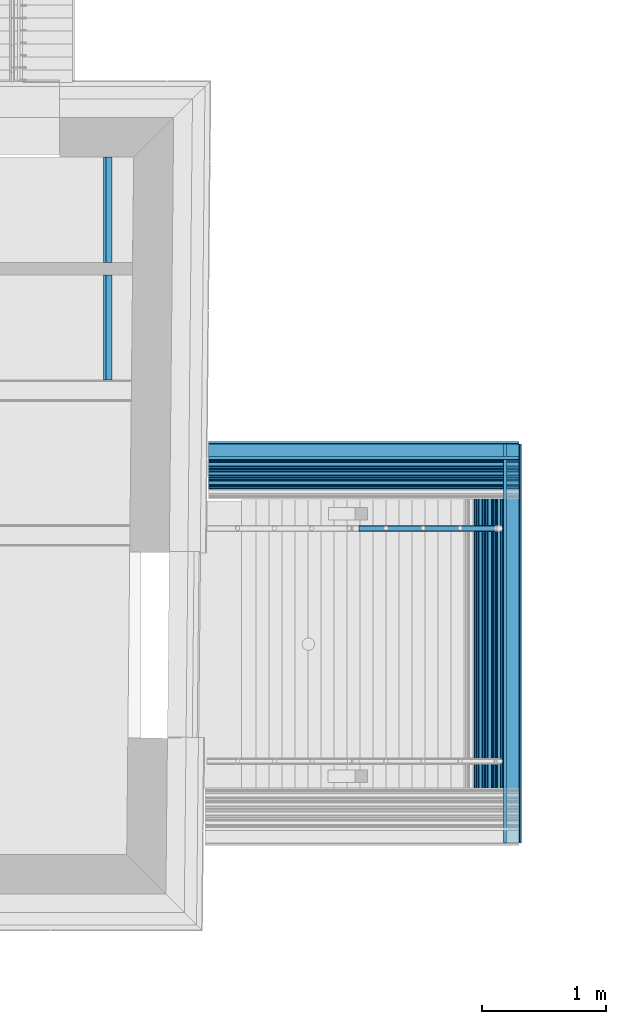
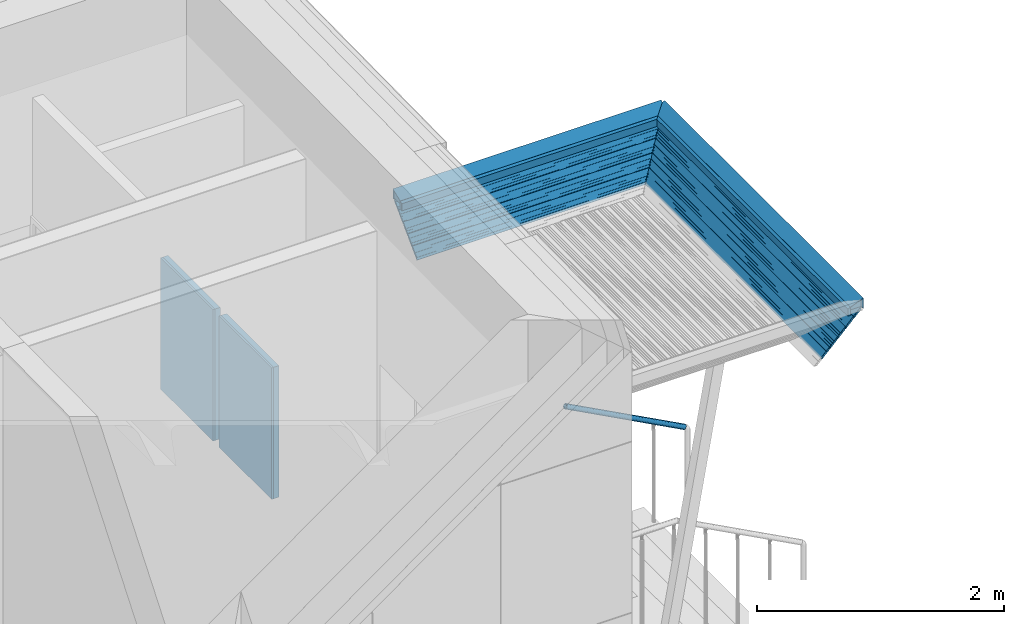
# One storey, part 57 of 418: 23 building element parts, 6 elements without a shape of their own.
"""IFC2X3 building model written with IfcOpenShell, lengths in millimetres."""

from ifc_helpers import new_model, entity, si_unit, converted_unit, derived_unit, money_unit, direction, frame, origin_with_axes, place, context, subcontext, project, spatial, polyline, outline, extrude, faceted_brep, source, transform, mapped, material, type_object, element, aggregate, save


model = new_model("IFC2X3")

# Units and contexts
model_context = context("Model", 3, precision=0.01, world=origin_with_axes(), true_north=direction((0.0, 1.0)))
body_context = subcontext(model_context, "Body", "Model", "MODEL_VIEW")
ifc_project = project(units=[si_unit("LENGTHUNIT", "METRE", prefix="MILLI"), si_unit("AREAUNIT", "SQUARE_METRE"), si_unit("VOLUMEUNIT", "CUBIC_METRE"), converted_unit("PLANEANGLEUNIT", "DEGREE", entity("IfcPlaneAngleMeasure", 0.0174532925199), si_unit("PLANEANGLEUNIT", "RADIAN"), dimensions=[0, 0, 0, 0, 0, 0, 0]), si_unit("SOLIDANGLEUNIT", "STERADIAN"), money_unit("EUR"), converted_unit("TIMEUNIT", "Year", entity("IfcTimeMeasure", 31556926.0), si_unit("TIMEUNIT", "SECOND"), dimensions=[0, 0, 1, 0, 0, 0, 0]), si_unit("MASSUNIT", "GRAM", prefix="KILO"), si_unit("THERMODYNAMICTEMPERATUREUNIT", "DEGREE_CELSIUS"), si_unit("LUMINOUSINTENSITYUNIT", "LUMEN"), si_unit("ENERGYUNIT", "JOULE", prefix="MEGA"), derived_unit("THERMALCONDUCTANCEUNIT", [(si_unit("POWERUNIT", "WATT"), 1), (si_unit("LENGTHUNIT", "METRE"), -1), (si_unit("THERMODYNAMICTEMPERATUREUNIT", "KELVIN"), -1)]), derived_unit("SPECIFICHEATCAPACITYUNIT", [(si_unit("ENERGYUNIT", "JOULE"), 1), (si_unit("MASSUNIT", "GRAM", prefix="KILO"), -1), (si_unit("THERMODYNAMICTEMPERATUREUNIT", "KELVIN"), -1)]), derived_unit("MASSDENSITYUNIT", [(si_unit("MASSUNIT", "GRAM", prefix="KILO"), 1), (si_unit("VOLUMEUNIT", "CUBIC_METRE"), -1)])], contexts=[model_context])

# Site, building, storey
site_placement = place(None, origin_with_axes())
site = spatial("IfcSite", under=ifc_project, at=site_placement, Name="Paldiski mnt 245/1, Tallinn, Harjumaa", CompositionType="COMPLEX")
building_placement = place(site_placement, origin_with_axes())
building = spatial("IfcBuilding", under=site, at=building_placement, Name="RKAS Hoone üldnimetus (kasutust iseloomustav) -> IFC Project Manager -> SOLIBRI", CompositionType="ELEMENT")
storey_placement = place(building_placement, origin_with_axes())
storey = spatial("IfcBuildingStorey", under=building, at=storey_placement, Name="Esimene korrus", CompositionType="ELEMENT", Elevation=0.0)

# Proxies, building element part
building_element_proxy_type_1 = type_object("IfcBuildingElementProxyType", Name="Railing Type", PredefinedType="NOTDEFINED")
proxy_1_placement = place(storey_placement, frame((-46768.8433803, 32771.6822003, -641.218687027), z_axis=(0.0, 0.0, 1.0), x_axis=(1.0, 0.0, 0.0)))
proxy_1 = element("IfcBuildingElementProxy", 1, at=proxy_1_placement, inside=storey, type_object=building_element_proxy_type_1, Name="Trepipiire")
building_element_proxy_type_2 = type_object("IfcBuildingElementProxyType", Name="IfcBuildingElementProxy", PredefinedType="NOTDEFINED")
proxy_2_placement = place(proxy_1_placement, frame((1818.60171567, 0.0, 944.098300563), z_axis=(0.0, 0.0, 1.0), x_axis=(1.0, 0.0, 0.0)))
proxy_2 = element("IfcBuildingElementProxy", 2, at=proxy_2_placement, type_object=building_element_proxy_type_2, Name="ÜL PIIRE - 001")
aggregate(proxy_1, [proxy_2])
ifc_material_1 = material(Name="RAL7016")
shared_shape = source(origin_with_axes(), body_context, "Body", "Brep", [
    faceted_brep([(47.7351153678, -3.55978764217, 969.07806159), (47.8817196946, 0.0, 969.35283915), (1162.06617794, 0.0, 374.892859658), (1161.90896311, -3.55978764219, 374.623743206), (49.8212142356, -4.34120444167, 972.987995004), (50.0, 0.0, 973.323089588), (49.8212142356, 4.34120444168, 972.987995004), (49.2902892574, 8.55050358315, 971.992892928), (48.4233569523, 12.5, 970.368019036), (47.2467586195, 16.0696902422, 968.162744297), (45.7962446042, 19.151111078, 965.444074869), (44.1158880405, 21.6506350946, 962.294616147), (42.2567457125, 23.4923155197, 958.81006284), (40.275306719, 24.6201938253, 955.096291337), (38.2317760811, 25.0, 951.266142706), (36.1882454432, 24.6201938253, 947.435994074), (34.2068064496, 23.4923155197, 943.722222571), (32.3476641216, 21.6506350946, 940.237669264), (30.6673075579, 19.151111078, 937.088210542), (29.2167935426, 16.0696902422, 934.369541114), (28.0401952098, 12.5, 932.164266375), (27.1732629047, 8.55050358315, 930.539392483), (26.6423379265, 4.34120444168, 929.544290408), (26.4635521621, 0.0, 929.209195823), (26.6423379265, -4.34120444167, 929.544290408), (27.1732629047, -8.55050358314, 930.539392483), (28.0401952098, -12.5, 932.164266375), (29.2167935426, -16.0696902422, 934.369541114), (30.6673075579, -19.151111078, 937.088210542), (32.3476641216, -21.6506350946, 940.237669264), (34.2068064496, -23.4923155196, 943.722222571), (36.1882454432, -24.6201938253, 947.435994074), (38.2317760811, -25.0, 951.266142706), (40.275306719, -24.6201938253, 955.096291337), (42.2567457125, -23.4923155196, 958.81006284), (44.1158880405, -21.6506350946, 962.294616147), (45.7962446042, -19.151111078, 965.444074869), (47.2467586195, -16.0696902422, 968.162744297), (48.4233569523, -12.5, 970.368019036), (49.2902892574, -8.55050358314, 971.992892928), (47.7351153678, 3.55978764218, 969.07806159), (47.2997568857, -7.01141293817, 968.262077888), (46.5888723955, -10.25, 966.929681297), (45.6240617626, -13.1771459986, 965.121356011), (44.43464027, -15.7039110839, 962.89204708), (43.0567478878, -17.7535207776, 960.309490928), (41.5322511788, -19.2636987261, 957.452157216), (39.9074712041, -20.1885589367, 954.406864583), (38.2317760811, -20.5, 951.266142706), (36.556080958, -20.1885589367, 948.125420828), (34.9313009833, -19.2636987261, 945.080128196), (33.4068042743, -17.7535207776, 942.222794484), (32.0289118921, -15.7039110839, 939.640238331), (30.8394903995, -13.1771459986, 937.4109294), (29.8746797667, -10.25, 935.602604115), (29.1637952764, -7.01141293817, 934.270207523), (28.7284367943, -3.55978764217, 933.454223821), (28.5818324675, 0.0, 933.179446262), (28.7284367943, 3.55978764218, 933.454223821), (29.1637952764, 7.01141293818, 934.270207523), (29.8746797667, 10.25, 935.602604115), (30.8394903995, 13.1771459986, 937.4109294), (32.0289118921, 15.7039110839, 939.640238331), (33.4068042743, 17.7535207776, 942.222794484), (34.9313009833, 19.2636987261, 945.080128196), (36.556080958, 20.1885589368, 948.125420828), (38.2317760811, 20.5, 951.266142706), (39.9074712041, 20.1885589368, 954.406864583), (41.5322511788, 19.2636987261, 957.452157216), (43.0567478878, 17.7535207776, 960.309490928), (44.43464027, 15.7039110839, 962.89204708), (45.6240617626, 13.1771459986, 965.121356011), (46.5888723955, 10.25, 966.929681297), (47.2997568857, 7.01141293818, 968.262077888), (1161.90896311, 3.55978764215, 374.623743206), (1145.40784379, 21.6506350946, 346.377535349), (1147.4015417, 23.4923155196, 349.790298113), (1149.52638751, 24.6201938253, 353.427556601), (1151.71781885, 25.0, 357.178794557), (1153.90925019, 24.6201938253, 360.930032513), (1156.03409599, 23.4923155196, 364.567291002), (1158.0277939, 21.6506350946, 367.980053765), (1159.82976642, 19.151111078, 371.064625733), (1161.3852615, 16.0696902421, 373.727283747), (1162.64701624, 12.5, 375.887124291), (1163.57669284, 8.55050358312, 377.478521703), (1164.14604356, 4.34120444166, 378.453122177), (1164.33776896, 0.0, 378.781312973), (1164.14604356, -4.34120444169, 378.453122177), (1163.57669284, -8.55050358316, 377.478521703), (1162.64701624, -12.5, 375.887124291), (1161.3852615, -16.0696902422, 373.727283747), (1159.82976642, -19.151111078, 371.064625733), (1158.0277939, -21.6506350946, 367.980053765), (1156.03409599, -23.4923155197, 364.567291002), (1153.90925019, -24.6201938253, 360.930032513), (1151.71781885, -25.0, 357.178794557), (1149.52638751, -24.6201938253, 353.427556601), (1147.4015417, -23.4923155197, 349.790298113), (1145.40784379, -21.6506350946, 346.377535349), (1143.60587128, -19.151111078, 343.292963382), (1142.05037619, -16.0696902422, 340.630305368), (1140.78862146, -12.5, 338.470464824), (1139.85894485, -8.55050358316, 336.879067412), (1139.28959413, -4.34120444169, 335.904466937), (1139.09786873, 0.0, 335.576276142), (1139.28959413, 4.34120444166, 335.904466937), (1139.85894485, 8.55050358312, 336.879067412), (1140.78862146, 12.5, 338.470464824), (1142.05037619, 16.0696902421, 340.630305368), (1143.60587128, 19.151111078, 343.292963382), (1156.89199839, 17.7535207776, 366.035827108), (1155.25716611, 19.2636987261, 363.237361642), (1153.51479255, 20.1885589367, 360.254809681), (1151.71781885, 20.5, 357.178794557), (1149.92084515, 20.1885589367, 354.102779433), (1148.17847159, 19.2636987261, 351.120227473), (1146.5436393, 17.7535207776, 348.321762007), (1145.06602184, 15.7039110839, 345.792412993), (1143.79051587, 13.1771459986, 343.609033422), (1142.75587699, 10.25, 341.837964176), (1141.99354217, 7.01141293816, 340.533018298), (1141.52667458, 3.55978764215, 339.733845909), (1141.36945976, 0.0, 339.464729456), (1141.52667458, -3.55978764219, 339.733845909), (1141.99354217, -7.01141293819, 340.533018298), (1142.75587699, -10.25, 341.837964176), (1143.79051587, -13.1771459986, 343.609033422), (1145.06602184, -15.703911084, 345.792412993), (1146.5436393, -17.7535207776, 348.321762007), (1148.17847159, -19.2636987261, 351.120227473), (1149.92084515, -20.1885589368, 354.102779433), (1151.71781885, -20.5, 357.178794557), (1153.51479255, -20.1885589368, 360.254809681), (1155.25716611, -19.2636987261, 363.237361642), (1156.89199839, -17.7535207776, 366.035827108), (1158.36961585, -15.703911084, 368.565176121), (1159.64512183, -13.1771459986, 370.748555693), (1160.67976071, -10.25, 372.519624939), (1161.44209552, -7.01141293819, 373.824570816), (1161.44209552, 7.01141293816, 373.824570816), (1160.67976071, 10.25, 372.519624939), (1159.64512183, 13.1771459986, 370.748555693), (1158.36961585, 15.7039110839, 368.565176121)], [[[0, 1, 2, 3]], [[4, 5, 6, 7, 8, 9, 10, 11, 12, 13, 14, 15, 16, 17, 18, 19, 20, 21, 22, 23, 24, 25, 26, 27, 28, 29, 30, 31, 32, 33, 34, 35, 36, 37, 38, 39], [40, 1, 0, 41, 42, 43, 44, 45, 46, 47, 48, 49, 50, 51, 52, 53, 54, 55, 56, 57, 58, 59, 60, 61, 62, 63, 64, 65, 66, 67, 68, 69, 70, 71, 72, 73]], [[1, 40, 74, 2]], [[75, 76, 77, 78, 79, 80, 81, 82, 83, 84, 85, 86, 87, 88, 89, 90, 91, 92, 93, 94, 95, 96, 97, 98, 99, 100, 101, 102, 103, 104, 105, 106, 107, 108, 109, 110], [111, 112, 113, 114, 115, 116, 117, 118, 119, 120, 121, 122, 123, 124, 125, 126, 127, 128, 129, 130, 131, 132, 133, 134, 135, 136, 137, 138, 139, 3, 2, 74, 140, 141, 142, 143]], [[41, 0, 3, 139]], [[5, 4, 88, 87]], [[6, 5, 87, 86]], [[7, 6, 86, 85]], [[8, 7, 85, 84]], [[9, 8, 84, 83]], [[10, 9, 83, 82]], [[11, 10, 82, 81]], [[12, 11, 81, 80]], [[13, 12, 80, 79]], [[14, 13, 79, 78]], [[15, 14, 78, 77]], [[16, 15, 77, 76]], [[17, 16, 76, 75]], [[18, 17, 75, 110]], [[19, 18, 110, 109]], [[20, 19, 109, 108]], [[21, 20, 108, 107]], [[22, 21, 107, 106]], [[23, 22, 106, 105]], [[24, 23, 105, 104]], [[25, 24, 104, 103]], [[26, 25, 103, 102]], [[27, 26, 102, 101]], [[28, 27, 101, 100]], [[29, 28, 100, 99]], [[30, 29, 99, 98]], [[31, 30, 98, 97]], [[32, 31, 97, 96]], [[33, 32, 96, 95]], [[34, 33, 95, 94]], [[35, 34, 94, 93]], [[36, 35, 93, 92]], [[37, 36, 92, 91]], [[38, 37, 91, 90]], [[39, 38, 90, 89]], [[4, 39, 89, 88]], [[42, 41, 139, 138]], [[43, 42, 138, 137]], [[44, 43, 137, 136]], [[45, 44, 136, 135]], [[46, 45, 135, 134]], [[47, 46, 134, 133]], [[48, 47, 133, 132]], [[49, 48, 132, 131]], [[50, 49, 131, 130]], [[51, 50, 130, 129]], [[52, 51, 129, 128]], [[53, 52, 128, 127]], [[54, 53, 127, 126]], [[55, 54, 126, 125]], [[56, 55, 125, 124]], [[57, 56, 124, 123]], [[58, 57, 123, 122]], [[59, 58, 122, 121]], [[60, 59, 121, 120]], [[61, 60, 120, 119]], [[62, 61, 119, 118]], [[63, 62, 118, 117]], [[64, 63, 117, 116]], [[65, 64, 116, 115]], [[66, 65, 115, 114]], [[67, 66, 114, 113]], [[68, 67, 113, 112]], [[69, 68, 112, 111]], [[70, 69, 111, 143]], [[71, 70, 143, 142]], [[72, 71, 142, 141]], [[73, 72, 141, 140]], [[40, 73, 140, 74]]]),
])
building_element_part_1_placement = place(proxy_2_placement, origin_with_axes())
building_element_part_1 = element("IfcBuildingElementPart", 3, at=building_element_part_1_placement, material=ifc_material_1, Name="RAL7016", context=body_context, shape_type="MappedRepresentation", body=[
    mapped(shared_shape, transform((-607.16888448, 0.0, -322.879613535))),
])
aggregate(proxy_2, [building_element_part_1])

# Wall, building element parts
wall_type = type_object("IfcWallType", Name="WC-tagasein 68", PredefinedType="NOTDEFINED")
wall_1_placement = place(storey_placement, frame((-47503.6975133, 34819.9150652, 0.0), z_axis=(0.0, 0.0, 1.0), x_axis=(0.0, -1.0, 0.0)))
wall_1 = element("IfcWall", 4, at=wall_1_placement, inside=storey, type_object=wall_type, Name="WC_tagasein")
ifc_material_2 = material(Name="SKR-01_Õhkvahe - Raam")
building_element_part_2_placement = place(wall_1_placement, origin_with_axes())
building_element_part_2 = element("IfcBuildingElementPart", 5, at=building_element_part_2_placement, material=ifc_material_2, Name="SKR-01_Õhkvahe - Raam", context=body_context, shape_type="SweptSolid", body=[
    extrude(outline(polyline([(0.0, -50.0), (850.08634089, -50.0), (850.08634089, 0.0), (0.0, 0.0), (0.0, -50.0)])), origin_with_axes(), (0.0, 0.0, 1.0), 1300.0),
])
ifc_material_3 = material(Name="SKR-04_Puitplaat")
building_element_part_3_placement = place(wall_1_placement, origin_with_axes())
building_element_part_3 = element("IfcBuildingElementPart", 6, at=building_element_part_3_placement, material=ifc_material_3, Name="SKR-04_Puitplaat", context=body_context, shape_type="SweptSolid", body=[
    extrude(outline(polyline([(0.0, -68.0), (850.08634089, -68.0), (850.08634089, -50.0), (0.0, -50.0), (0.0, -68.0)])), origin_with_axes(), (0.0, 0.0, 1.0), 1300.0),
])
aggregate(wall_1, [building_element_part_2, building_element_part_3])

wall_2_placement = place(storey_placement, frame((-47503.6975133, 35769.8287244, 0.0), z_axis=(0.0, 0.0, 1.0), x_axis=(0.0, -1.0, 0.0)))
wall_2 = element("IfcWall", 7, at=wall_2_placement, inside=storey, type_object=wall_type, Name="WC_tagasein")
building_element_part_4_placement = place(wall_2_placement, origin_with_axes())
building_element_part_4 = element("IfcBuildingElementPart", 8, at=building_element_part_4_placement, material=ifc_material_2, Name="SKR-01_Õhkvahe - Raam", context=body_context, shape_type="SweptSolid", body=[
    extrude(outline(polyline([(0.0, -50.0), (850.08634089, -50.0), (850.08634089, 0.0), (0.0, 0.0), (0.0, -50.0)])), origin_with_axes(), (0.0, 0.0, 1.0), 1300.0),
])
building_element_part_5_placement = place(wall_2_placement, origin_with_axes())
building_element_part_5 = element("IfcBuildingElementPart", 9, at=building_element_part_5_placement, material=ifc_material_3, Name="SKR-04_Puitplaat", context=body_context, shape_type="SweptSolid", body=[
    extrude(outline(polyline([(0.0, -68.0), (850.08634089, -68.0), (850.08634089, -50.0), (0.0, -50.0), (0.0, -68.0)])), origin_with_axes(), (0.0, 0.0, 1.0), 1300.0),
])
aggregate(wall_2, [building_element_part_4, building_element_part_5])

# Proxy, building element parts
building_element_proxy_type_3 = type_object("IfcBuildingElementProxyType", Name="Varikatus_01_02_03_raastas_01_02_03 463 x 518", PredefinedType="NOTDEFINED")
proxy_3_placement = place(storey_placement, frame((-46726.5941701, 33451.6821945, 3002.0), z_axis=(0.0, 0.0, 1.0), x_axis=(1.0, 0.0, 0.0)))
proxy_3 = element("IfcBuildingElementProxy", 10, at=proxy_3_placement, inside=storey, type_object=building_element_proxy_type_3, Name="Varikatus")
ifc_material_4 = material(Name="Laudis 5072 Honka 45 horisontaalne raastas")
building_element_part_6_placement = place(proxy_3_placement, origin_with_axes())
building_element_part_6 = element("IfcBuildingElementPart", 11, at=building_element_part_6_placement, material=ifc_material_4, Name="Laudis 5072 Honka 45 horisontaalne raastas", context=body_context, shape_type="SweptSolid", body=[
    extrude(outline(polyline([(-0.707110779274, -28.991377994), (70.0035572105, -99.7020658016), (77.0746259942, -92.6309996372), (62.9324932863, -78.4888616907), (70.7106681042, -70.7106876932), (60.4037490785, -60.4037652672), (55.4540010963, -65.3535115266), (51.4654463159, -61.3649565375), (56.4151941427, -56.4152087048), (45.9298674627, -45.9298803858), (40.9801194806, -50.8796266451), (36.6477185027, -46.5472250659), (41.5974664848, -41.5974788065), (31.0339169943, -31.0339261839), (26.0841690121, -35.9836724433), (21.5852050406, -31.4847067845), (26.5349528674, -26.5349589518), (0.0, 0.0), (-7.42462197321, -7.42461938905), (6.71751230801, -21.5667571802), (-0.707110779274, -28.991377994)])), frame((0.0, 0.0, 0.0), z_axis=(-1.0, 0.0, 0.0), x_axis=(0.0, -1.0, 0.0)), (0.0, 0.0, -1.0), 2508.95322517),
])
building_element_part_7_placement = place(proxy_3_placement, origin_with_axes())
building_element_part_7 = element("IfcBuildingElementPart", 12, at=building_element_part_7_placement, material=ifc_material_4, Name="Laudis 5072 Honka 45 horisontaalne raastas", context=body_context, shape_type="SweptSolid", body=[
    extrude(outline(polyline([(73.6350649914, -103.3335746), (144.345732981, -174.044262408), (151.416801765, -166.973196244), (137.274669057, -152.831058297), (145.052843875, -145.0528843), (134.745924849, -134.745961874), (129.796176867, -139.695708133), (125.807622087, -135.707153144), (130.757369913, -130.757405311), (120.272043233, -120.272076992), (115.322295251, -125.221823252), (110.989894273, -120.889421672), (115.939642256, -115.939675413), (105.376092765, -105.37612279), (100.426344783, -110.32586905), (95.9273808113, -105.826903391), (100.877128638, -100.877155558), (74.3421757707, -74.3421966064), (66.9175537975, -81.7668159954), (81.0596880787, -95.9089537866), (73.6350649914, -103.3335746)])), frame((0.0, 0.0, 0.0), z_axis=(-1.0, 0.0, 0.0), x_axis=(0.0, -1.0, 0.0)), (0.0, 0.0, -1.0), 2508.95322517),
])
building_element_part_8_placement = place(proxy_3_placement, origin_with_axes())
building_element_part_8 = element("IfcBuildingElementPart", 13, at=building_element_part_8_placement, material=ifc_material_4, Name="Laudis 5072 Honka 45 horisontaalne raastas", context=body_context, shape_type="SweptSolid", body=[
    extrude(outline(polyline([(147.977240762, -177.675771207), (218.687908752, -248.386459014), (225.758977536, -241.31539285), (211.616844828, -227.173254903), (219.395019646, -219.395080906), (209.08810062, -209.08815848), (204.138352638, -214.037904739), (200.149797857, -210.04934975), (205.099545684, -205.099601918), (194.614219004, -194.614273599), (189.664471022, -199.564019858), (185.332070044, -195.231618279), (190.281818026, -190.281872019), (179.718268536, -179.718319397), (174.768520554, -184.668065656), (170.269556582, -180.169099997), (175.219304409, -175.219352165), (148.684351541, -148.684393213), (141.259729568, -156.109012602), (155.401863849, -170.251150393), (147.977240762, -177.675771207)])), frame((0.0, 0.0, 0.0), z_axis=(-1.0, 0.0, 0.0), x_axis=(0.0, -1.0, 0.0)), (0.0, 0.0, -1.0), 2508.95322517),
])
building_element_part_9_placement = place(proxy_3_placement, origin_with_axes())
building_element_part_9 = element("IfcBuildingElementPart", 14, at=building_element_part_9_placement, material=ifc_material_4, Name="Laudis 5072 Honka 45 horisontaalne raastas", context=body_context, shape_type="SweptSolid", body=[
    extrude(outline(polyline([(222.223442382, -251.921993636), (292.934110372, -322.632681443), (300.005179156, -315.561615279), (285.863046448, -301.419477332), (293.641221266, -293.641303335), (283.33430224, -283.334380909), (278.384554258, -288.284127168), (274.395999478, -284.295572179), (279.345747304, -279.345824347), (268.860420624, -268.860496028), (263.910672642, -273.810242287), (259.578271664, -269.477840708), (264.528019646, -264.528094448), (253.964470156, -253.964541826), (249.014722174, -258.914288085), (244.515758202, -254.415322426), (249.465506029, -249.465574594), (222.930553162, -222.930615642), (215.505931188, -230.355235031), (229.64806547, -244.497372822), (222.223442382, -251.921993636)])), frame((0.0, 0.0, 0.0), z_axis=(-1.0, 0.0, 0.0), x_axis=(0.0, -1.0, 0.0)), (0.0, 0.0, -1.0), 2508.95322517),
])
building_element_part_10_placement = place(proxy_3_placement, origin_with_axes())
building_element_part_10 = element("IfcBuildingElementPart", 15, at=building_element_part_10_placement, material=ifc_material_4, Name="Laudis 5072 Honka 45 horisontaalne raastas", context=body_context, shape_type="SweptSolid", body=[
    extrude(outline(polyline([(296.469644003, -326.168216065), (367.180311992, -396.878903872), (374.251380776, -389.807837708), (360.109248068, -375.665699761), (367.887422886, -367.887525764), (357.58050386, -357.580603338), (352.630755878, -362.530349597), (348.642201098, -358.541794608), (353.591948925, -353.592046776), (343.106622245, -343.106718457), (338.156874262, -348.056464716), (333.824473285, -343.724063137), (338.774221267, -338.774316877), (328.210671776, -328.210764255), (323.260923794, -333.160510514), (318.761959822, -328.661544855), (323.711707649, -323.711797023), (297.176754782, -297.176838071), (289.752132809, -304.60145746), (303.89426709, -318.743595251), (296.469644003, -326.168216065)])), frame((0.0, 0.0, 0.0), z_axis=(-1.0, 0.0, 0.0), x_axis=(0.0, -1.0, 0.0)), (0.0, 0.0, -1.0), 2508.95322517),
])
ifc_material_5 = material(Name="Puit - Konstruktsioon")
building_element_part_11_placement = place(proxy_3_placement, origin_with_axes())
building_element_part_11 = element("IfcBuildingElementPart", 16, at=building_element_part_11_placement, material=ifc_material_5, Name="Puit - Konstruktsioon", context=body_context, shape_type="SweptSolid", body=[
    extrude(outline(polyline([(1.15655691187e-06, 64.9893416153), (1.15655691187e-06, 4.50304654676e-07), (99.5753771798, 4.50304654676e-07), (99.5753771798, 24.9999969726), (1.15655691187e-06, 64.9893416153)])), frame((0.0, 0.0, 0.0), z_axis=(-1.0, 0.0, 0.0), x_axis=(0.0, -1.0, 0.0)), (0.0, 0.0, -1.0), 2508.95322517),
])
building_element_part_12_placement = place(proxy_3_placement, origin_with_axes())
building_element_part_12 = element("IfcBuildingElementPart", 17, at=building_element_part_12_placement, material=ifc_material_1, Name="RAL7016", context=body_context, shape_type="SweptSolid", body=[
    extrude(outline(polyline([(-20.9999961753, -28.4630715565), (-8.11233371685, -15.5753892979), (-8.81944068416, -14.8682823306), (-20.0, -26.0488592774), (-20.0, 74.5582444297), (99.5753779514, 26.5369258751), (99.9264049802, 27.9350719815), (-20.9999961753, 75.7446341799), (-20.9999961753, -28.4630715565)])), frame((0.0, 0.0, 0.0), z_axis=(-1.0, 0.0, 0.0), x_axis=(0.0, -1.0, 0.0)), (0.0, 0.0, -1.0), 2508.95322517),
])
ifc_material_6 = material(Name="PVC")
building_element_part_13_placement = place(proxy_3_placement, origin_with_axes())
building_element_part_13 = element("IfcBuildingElementPart", 18, at=building_element_part_13_placement, material=ifc_material_6, Name="PVC", context=body_context, shape_type="SweptSolid", body=[
    extrude(outline(polyline([(-8.02250845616e-07, 66.4893437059), (1.06016954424e-06, 64.9893410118), (123.575378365, 15.3616278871), (123.575378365, -54.6383718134), (124.984796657, -54.6383718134), (124.984796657, 16.4879117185), (-8.02250845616e-07, 66.4893437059)])), frame((0.0, 0.0, 0.0), z_axis=(-1.0, 0.0, 0.0), x_axis=(0.0, -1.0, 0.0)), (0.0, 0.0, -1.0), 2508.95322517),
])
ifc_material_7 = material(Name="Veekindel vineer 24 mm")
building_element_part_14_placement = place(proxy_3_placement, origin_with_axes())
building_element_part_14 = element("IfcBuildingElementPart", 19, at=building_element_part_14_placement, material=ifc_material_7, Name="Veekindel vineer 24 mm", context=body_context, shape_type="SweptSolid", body=[
    extrude(outline(polyline([(99.5753780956, 24.99999609), (99.5753780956, -54.6383718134), (123.575378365, -54.6383718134), (123.575378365, 15.3616278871), (99.5753780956, 24.99999609)])), frame((0.0, 0.0, 0.0), z_axis=(-1.0, 0.0, 0.0), x_axis=(0.0, -1.0, 0.0)), (0.0, 0.0, -1.0), 2508.95322517),
])
aggregate(proxy_3, [building_element_part_6, building_element_part_7, building_element_part_8, building_element_part_9, building_element_part_10, building_element_part_11, building_element_part_12, building_element_part_13, building_element_part_14])

proxy_4_placement = place(storey_placement, frame((-44217.6409449, 33451.6821945, 3002.0), z_axis=(0.0, 0.0, 1.0), x_axis=(0.0, -1.0, 0.0)))
proxy_4 = element("IfcBuildingElementProxy", 20, at=proxy_4_placement, inside=storey, type_object=building_element_proxy_type_3, Name="Varikatus")
building_element_part_15_placement = place(proxy_4_placement, origin_with_axes())
building_element_part_15 = element("IfcBuildingElementPart", 21, at=building_element_part_15_placement, material=ifc_material_4, Name="Laudis 5072 Honka 45 horisontaalne raastas", context=body_context, shape_type="SweptSolid", body=[
    extrude(outline(polyline([(-0.707110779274, -28.991377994), (70.0035572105, -99.7020658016), (77.0746259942, -92.6309996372), (62.9324932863, -78.4888616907), (70.7106681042, -70.7106876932), (60.4037490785, -60.4037652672), (55.4540010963, -65.3535115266), (51.4654463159, -61.3649565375), (56.4151941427, -56.4152087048), (45.9298674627, -45.9298803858), (40.9801194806, -50.8796266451), (36.6477185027, -46.5472250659), (41.5974664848, -41.5974788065), (31.0339169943, -31.0339261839), (26.0841690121, -35.9836724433), (21.5852050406, -31.4847067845), (26.5349528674, -26.5349589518), (0.0, 0.0), (-7.42462197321, -7.42461938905), (6.71751230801, -21.5667571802), (-0.707110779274, -28.991377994)])), frame((0.0, 0.0, 0.0), z_axis=(-1.0, 0.0, 0.0), x_axis=(0.0, -1.0, 0.0)), (0.0, 0.0, -1.0), 3218.89132935),
])
building_element_part_16_placement = place(proxy_4_placement, origin_with_axes())
building_element_part_16 = element("IfcBuildingElementPart", 22, at=building_element_part_16_placement, material=ifc_material_4, Name="Laudis 5072 Honka 45 horisontaalne raastas", context=body_context, shape_type="SweptSolid", body=[
    extrude(outline(polyline([(73.6350649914, -103.3335746), (144.345732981, -174.044262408), (151.416801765, -166.973196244), (137.274669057, -152.831058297), (145.052843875, -145.0528843), (134.745924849, -134.745961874), (129.796176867, -139.695708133), (125.807622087, -135.707153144), (130.757369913, -130.757405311), (120.272043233, -120.272076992), (115.322295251, -125.221823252), (110.989894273, -120.889421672), (115.939642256, -115.939675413), (105.376092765, -105.37612279), (100.426344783, -110.32586905), (95.9273808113, -105.826903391), (100.877128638, -100.877155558), (74.3421757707, -74.3421966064), (66.9175537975, -81.7668159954), (81.0596880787, -95.9089537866), (73.6350649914, -103.3335746)])), frame((0.0, 0.0, 0.0), z_axis=(-1.0, 0.0, 0.0), x_axis=(0.0, -1.0, 0.0)), (0.0, 0.0, -1.0), 3218.89132935),
])
building_element_part_17_placement = place(proxy_4_placement, origin_with_axes())
building_element_part_17 = element("IfcBuildingElementPart", 23, at=building_element_part_17_placement, material=ifc_material_4, Name="Laudis 5072 Honka 45 horisontaalne raastas", context=body_context, shape_type="SweptSolid", body=[
    extrude(outline(polyline([(147.977240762, -177.675771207), (218.687908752, -248.386459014), (225.758977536, -241.31539285), (211.616844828, -227.173254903), (219.395019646, -219.395080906), (209.08810062, -209.08815848), (204.138352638, -214.037904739), (200.149797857, -210.04934975), (205.099545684, -205.099601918), (194.614219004, -194.614273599), (189.664471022, -199.564019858), (185.332070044, -195.231618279), (190.281818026, -190.281872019), (179.718268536, -179.718319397), (174.768520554, -184.668065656), (170.269556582, -180.169099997), (175.219304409, -175.219352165), (148.684351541, -148.684393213), (141.259729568, -156.109012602), (155.401863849, -170.251150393), (147.977240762, -177.675771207)])), frame((0.0, 0.0, 0.0), z_axis=(-1.0, 0.0, 0.0), x_axis=(0.0, -1.0, 0.0)), (0.0, 0.0, -1.0), 3218.89132935),
])
building_element_part_18_placement = place(proxy_4_placement, origin_with_axes())
building_element_part_18 = element("IfcBuildingElementPart", 24, at=building_element_part_18_placement, material=ifc_material_4, Name="Laudis 5072 Honka 45 horisontaalne raastas", context=body_context, shape_type="SweptSolid", body=[
    extrude(outline(polyline([(222.223442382, -251.921993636), (292.934110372, -322.632681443), (300.005179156, -315.561615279), (285.863046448, -301.419477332), (293.641221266, -293.641303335), (283.33430224, -283.334380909), (278.384554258, -288.284127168), (274.395999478, -284.295572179), (279.345747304, -279.345824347), (268.860420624, -268.860496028), (263.910672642, -273.810242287), (259.578271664, -269.477840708), (264.528019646, -264.528094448), (253.964470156, -253.964541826), (249.014722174, -258.914288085), (244.515758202, -254.415322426), (249.465506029, -249.465574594), (222.930553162, -222.930615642), (215.505931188, -230.355235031), (229.64806547, -244.497372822), (222.223442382, -251.921993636)])), frame((0.0, 0.0, 0.0), z_axis=(-1.0, 0.0, 0.0), x_axis=(0.0, -1.0, 0.0)), (0.0, 0.0, -1.0), 3218.89132935),
])
building_element_part_19_placement = place(proxy_4_placement, origin_with_axes())
building_element_part_19 = element("IfcBuildingElementPart", 25, at=building_element_part_19_placement, material=ifc_material_4, Name="Laudis 5072 Honka 45 horisontaalne raastas", context=body_context, shape_type="SweptSolid", body=[
    extrude(outline(polyline([(296.469644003, -326.168216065), (367.180311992, -396.878903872), (374.251380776, -389.807837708), (360.109248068, -375.665699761), (367.887422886, -367.887525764), (357.58050386, -357.580603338), (352.630755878, -362.530349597), (348.642201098, -358.541794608), (353.591948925, -353.592046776), (343.106622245, -343.106718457), (338.156874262, -348.056464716), (333.824473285, -343.724063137), (338.774221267, -338.774316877), (328.210671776, -328.210764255), (323.260923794, -333.160510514), (318.761959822, -328.661544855), (323.711707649, -323.711797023), (297.176754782, -297.176838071), (289.752132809, -304.60145746), (303.89426709, -318.743595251), (296.469644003, -326.168216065)])), frame((0.0, 0.0, 0.0), z_axis=(-1.0, 0.0, 0.0), x_axis=(0.0, -1.0, 0.0)), (0.0, 0.0, -1.0), 3218.89132935),
])
building_element_part_20_placement = place(proxy_4_placement, origin_with_axes())
building_element_part_20 = element("IfcBuildingElementPart", 26, at=building_element_part_20_placement, material=ifc_material_5, Name="Puit - Konstruktsioon", context=body_context, shape_type="SweptSolid", body=[
    extrude(outline(polyline([(1.15655691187e-06, 64.9893416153), (1.15655691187e-06, 4.50304654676e-07), (99.5753771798, 4.50304654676e-07), (99.5753771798, 24.9999969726), (1.15655691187e-06, 64.9893416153)])), frame((0.0, 0.0, 0.0), z_axis=(-1.0, 0.0, 0.0), x_axis=(0.0, -1.0, 0.0)), (0.0, 0.0, -1.0), 3218.89132935),
])
building_element_part_21_placement = place(proxy_4_placement, origin_with_axes())
building_element_part_21 = element("IfcBuildingElementPart", 27, at=building_element_part_21_placement, material=ifc_material_1, Name="RAL7016", context=body_context, shape_type="SweptSolid", body=[
    extrude(outline(polyline([(-20.9999961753, -28.4630715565), (-8.11233371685, -15.5753892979), (-8.81944068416, -14.8682823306), (-20.0, -26.0488592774), (-20.0, 74.5582444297), (99.5753779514, 26.5369258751), (99.9264049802, 27.9350719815), (-20.9999961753, 75.7446341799), (-20.9999961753, -28.4630715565)])), frame((0.0, 0.0, 0.0), z_axis=(-1.0, 0.0, 0.0), x_axis=(0.0, -1.0, 0.0)), (0.0, 0.0, -1.0), 3218.89132935),
])
building_element_part_22_placement = place(proxy_4_placement, origin_with_axes())
building_element_part_22 = element("IfcBuildingElementPart", 28, at=building_element_part_22_placement, material=ifc_material_6, Name="PVC", context=body_context, shape_type="SweptSolid", body=[
    extrude(outline(polyline([(-8.02250845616e-07, 66.4893437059), (1.06016954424e-06, 64.9893410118), (123.575378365, 15.3616278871), (123.575378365, -54.6383718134), (124.984796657, -54.6383718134), (124.984796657, 16.4879117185), (-8.02250845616e-07, 66.4893437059)])), frame((0.0, 0.0, 0.0), z_axis=(-1.0, 0.0, 0.0), x_axis=(0.0, -1.0, 0.0)), (0.0, 0.0, -1.0), 3218.89132935),
])
building_element_part_23_placement = place(proxy_4_placement, origin_with_axes())
building_element_part_23 = element("IfcBuildingElementPart", 29, at=building_element_part_23_placement, material=ifc_material_7, Name="Veekindel vineer 24 mm", context=body_context, shape_type="SweptSolid", body=[
    extrude(outline(polyline([(99.5753780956, 24.99999609), (99.5753780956, -54.6383718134), (123.575378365, -54.6383718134), (123.575378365, 15.3616278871), (99.5753780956, 24.99999609)])), frame((0.0, 0.0, 0.0), z_axis=(-1.0, 0.0, 0.0), x_axis=(0.0, -1.0, 0.0)), (0.0, 0.0, -1.0), 3218.89132935),
])
aggregate(proxy_4, [building_element_part_15, building_element_part_16, building_element_part_17, building_element_part_18, building_element_part_19, building_element_part_20, building_element_part_21, building_element_part_22, building_element_part_23])

save(model, "model.ifc")
